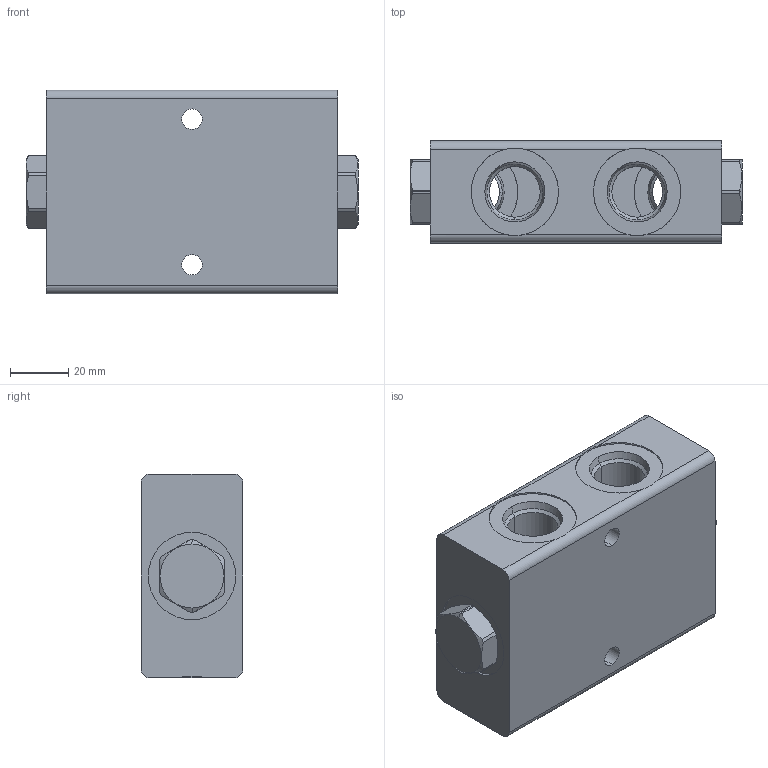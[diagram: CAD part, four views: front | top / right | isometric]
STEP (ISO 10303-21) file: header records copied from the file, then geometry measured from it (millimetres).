
FILE_DESCRIPTION (( 'STEP AP214' ), '1' );
FILE_NAME ('VRP34003.STEP', '2025-06-03T01:13:06', ( '' ), ( '' ), 'SwSTEP 2.0', 'SolidWorks 2023', '' );
FILE_SCHEMA (( 'AUTOMOTIVE_DESIGN' ));
Length unit declared in the file: millimetre
Products named in the file (1): VRP34003
Bounding box: 114 x 35 x 70 mm (x, y, z)
Surface area: 31635.4 mm2 (no closed solid volume)
Topology: 0 solids, 3 shells, 96 faces, 256 edges, 166 vertices
Faces by surface type: cylinder 46, plane 30, cone 20
Entity records: 3298 total; most frequent: CARTESIAN_POINT 875, DIRECTION 536, ORIENTED_EDGE 466, EDGE_CURVE 256, AXIS2_PLACEMENT_3D 219, VERTEX_POINT 166, CIRCLE 122, EDGE_LOOP 108
